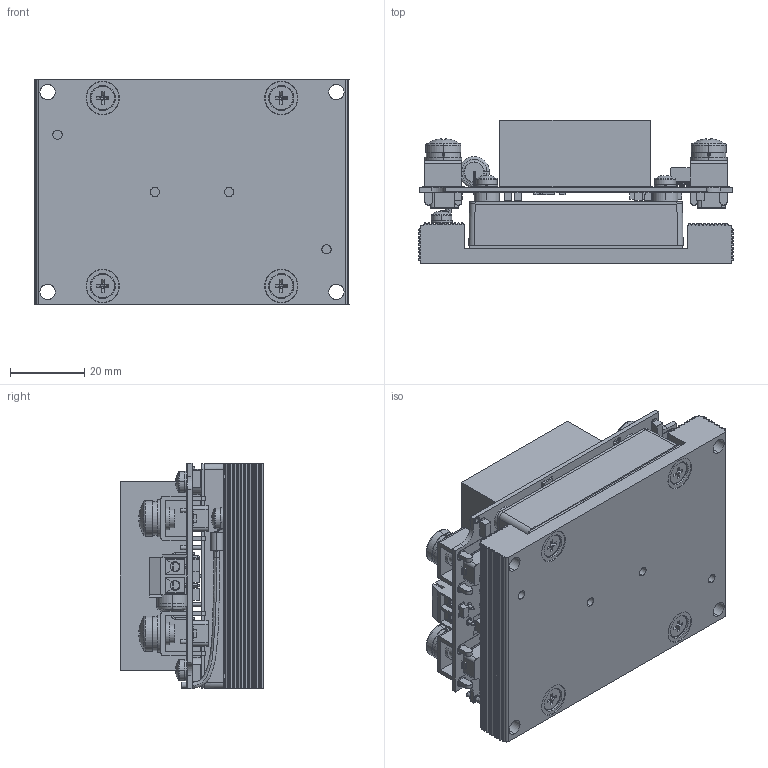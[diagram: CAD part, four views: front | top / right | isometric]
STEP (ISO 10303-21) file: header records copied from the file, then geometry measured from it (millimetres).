
FILE_DESCRIPTION (( 'STEP AP214' ), '1' );
FILE_NAME ('TEP 200 CMF.STEP', '2022-05-11T03:34:05', ( '' ), ( '' ), 'SwSTEP 2.0', 'SolidWorks 2016', '' );
FILE_SCHEMA (( 'AUTOMOTIVE_DESIGN' ));
Length unit declared in the file: millimetre
Products named in the file (1): TEP 200  CMF
Bounding box: 85 x 38.8 x 61 mm (x, y, z)
Volume: 125366.7 mm3; surface area: 65474.4 mm2
Topology: 58 solids, 58 shells, 3118 faces, 7922 edges, 5088 vertices
Faces by surface type: plane 1706, cylinder 1048, bspline 187, cone 177
Entity records: 120197 total; most frequent: CARTESIAN_POINT 23738, ORIENTED_EDGE 15730, DIRECTION 15471, EDGE_CURVE 7865, AXIS2_PLACEMENT_3D 5341, VERTEX_POINT 5088, LINE 4789, VECTOR 4789
